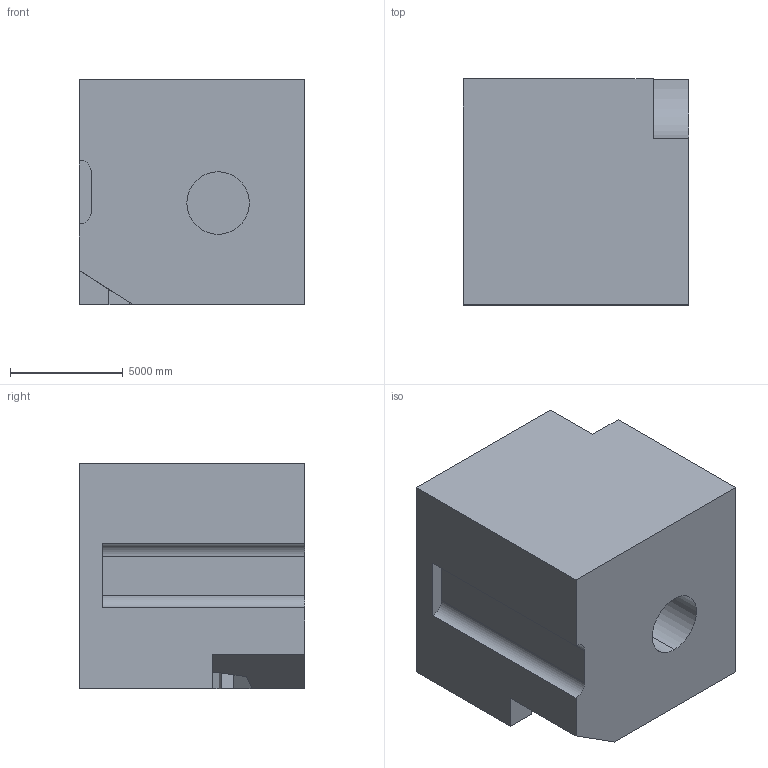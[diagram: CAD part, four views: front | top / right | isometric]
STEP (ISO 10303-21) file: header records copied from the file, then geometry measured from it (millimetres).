
FILE_DESCRIPTION (( 'STEP AP203' ), '1' );
FILE_NAME ('1594.STEP', '2022-08-18T16:01:52', ( 'user' ), ( '' ), 'SwSTEP 2.0', 'SolidWorks 2021', '' );
FILE_SCHEMA (( 'CONFIG_CONTROL_DESIGN' ));
Length unit declared in the file: centimetre
Products named in the file (1): 1594
Bounding box: 10000 x 10000 x 10000 mm (x, y, z)
Volume: 903267037315.7 mm3; surface area: 710746264.2 mm2
Topology: 1 solids, 1 shells, 31 faces, 84 edges, 56 vertices
Faces by surface type: plane 26, cylinder 5
Entity records: 1045 total; most frequent: CARTESIAN_POINT 172, ORIENTED_EDGE 168, DIRECTION 158, EDGE_CURVE 84, VECTOR 74, LINE 74, VERTEX_POINT 56, AXIS2_PLACEMENT_3D 42
